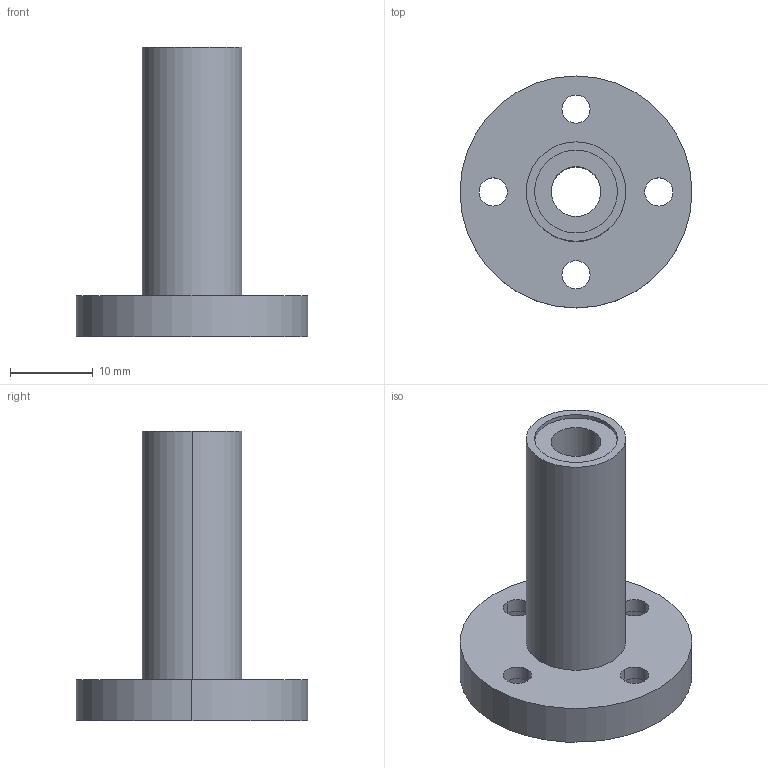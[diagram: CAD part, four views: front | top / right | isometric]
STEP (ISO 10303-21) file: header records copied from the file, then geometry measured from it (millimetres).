
FILE_DESCRIPTION((''),'2;1');
FILE_NAME('C:\Documents and Settings\ｿﾀﾀ蠑ｷ1\ｹﾙﾅﾁ ﾈｭｸ饅\ｺﾎﾇｰﾆﾄﾀﾏ\ﾁｦﾇｰ\LMF__LUU\LMF6LUU.stp','2005-06-15T09:40:42',('ｿﾀﾀ蠑ｷ1'),(''),'Autodesk Inventor 9','Autodesk Inventor 9','');
FILE_SCHEMA(('AUTOMOTIVE_DESIGN { 1 0 10303 214 1 1 1 1 }'));
Length unit declared in the file: millimetre
Products named in the file (1): LMF__
Bounding box: 28 x 28 x 35 mm (x, y, z)
Volume: 4916.7 mm3; surface area: 3690.7 mm2
Topology: 1 solids, 1 shells, 38 faces, 84 edges, 56 vertices
Faces by surface type: cylinder 28, plane 10
Entity records: 1127 total; most frequent: DIRECTION 218, CARTESIAN_POINT 179, ORIENTED_EDGE 168, AXIS2_PLACEMENT_3D 95, EDGE_CURVE 84, VERTEX_POINT 56, CIRCLE 56, EDGE_LOOP 56
